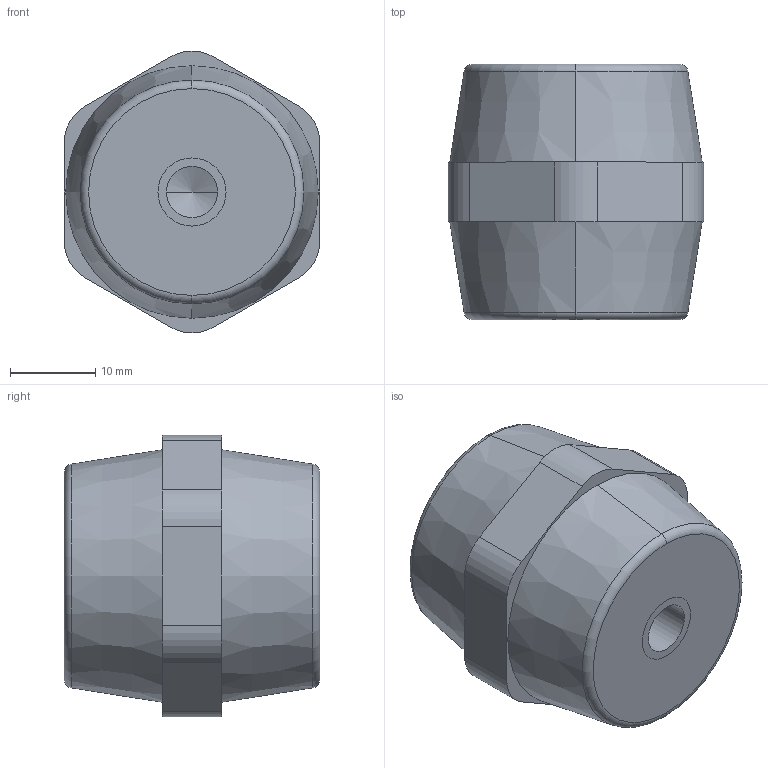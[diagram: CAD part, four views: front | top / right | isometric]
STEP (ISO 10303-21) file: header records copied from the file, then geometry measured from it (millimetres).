
FILE_DESCRIPTION (( 'STEP AP203' ), '1' );
FILE_NAME ('Isolatore 3049 30X30-M6.STEP', '2024-10-28T22:48:21', ( '' ), ( '' ), 'SwSTEP 2.0', 'SolidWorks 2020', '' );
FILE_SCHEMA (( 'CONFIG_CONTROL_DESIGN' ));
Length unit declared in the file: millimetre
Products named in the file (1): Isolatore 3049 30X30-M6
Bounding box: 30 x 30 x 33.09 mm (x, y, z)
Volume: 18858.7 mm3; surface area: 5911.5 mm2
Topology: 3 solids, 3 shells, 75 faces, 167 edges, 100 vertices
Faces by surface type: cylinder 35, plane 20, cone 16, torus 4
Entity records: 2088 total; most frequent: DIRECTION 393, CARTESIAN_POINT 331, ORIENTED_EDGE 310, AXIS2_PLACEMENT_3D 162, EDGE_CURVE 155, VERTEX_POINT 100, EDGE_LOOP 89, CIRCLE 86
